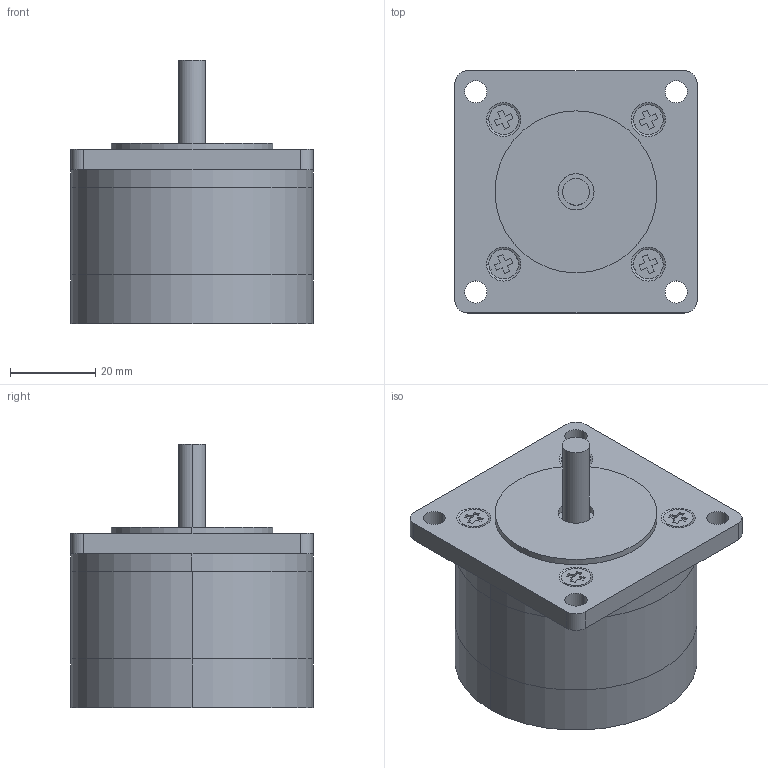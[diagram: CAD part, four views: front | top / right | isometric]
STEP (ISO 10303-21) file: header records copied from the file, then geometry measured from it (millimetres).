
FILE_DESCRIPTION (( 'STEP AP214' ), '1' );
FILE_NAME ('JK57HY41-0448-02.STEP', '2019-12-06T04:59:00', ( 'Win7_64' ), ( 'Win7_64' ), 'SwSTEP 2.0', 'SolidWorks 2016', '' );
FILE_SCHEMA (( 'AUTOMOTIVE_DESIGN' ));
Length unit declared in the file: millimetre
Products named in the file (6): 819; 57-20.5 埴隅赽; 6.35｡ﾁ21; JK.006.057.001FY; JK.006.057.001BY; JK57HY41-0448-02
Assembly tree (8 placements, depth 2):
  JK57HY41-0448-02
    JK.006.057.001BY
    JK.006.057.001FY
    6.35｡ﾁ21
    57-20.5 埴隅赽
    819  x4
Bounding box: 57 x 57 x 62 mm (x, y, z)
Volume: 70661.9 mm3; surface area: 31840.2 mm2
Topology: 8 solids, 8 shells, 149 faces, 364 edges, 234 vertices
Faces by surface type: plane 79, cylinder 54, cone 16
Entity records: 3402 total; most frequent: DIRECTION 580, CARTESIAN_POINT 501, ORIENTED_EDGE 472, EDGE_CURVE 236, AXIS2_PLACEMENT_3D 232, VERTEX_POINT 153, EDGE_LOOP 137, CIRCLE 120
